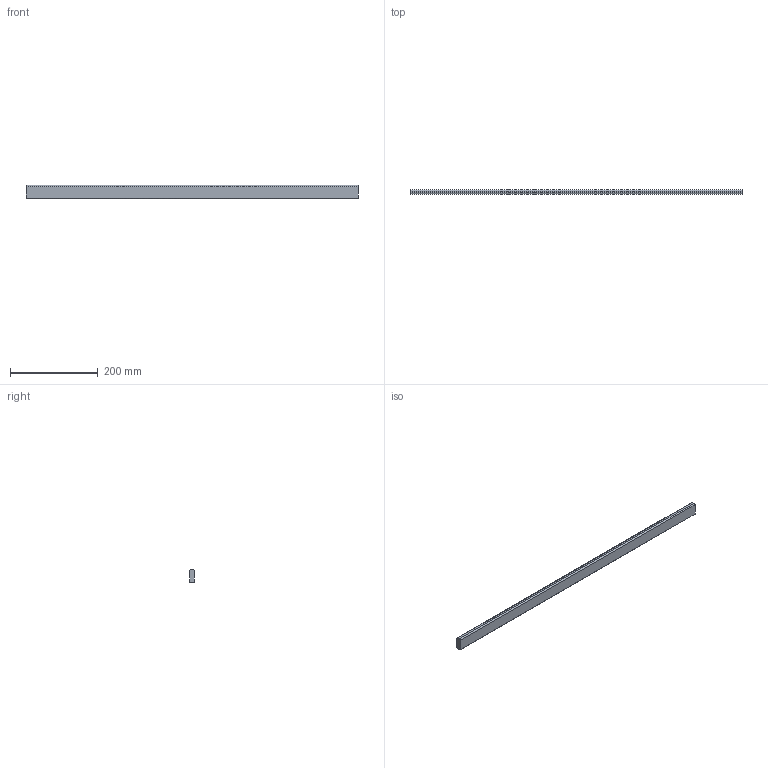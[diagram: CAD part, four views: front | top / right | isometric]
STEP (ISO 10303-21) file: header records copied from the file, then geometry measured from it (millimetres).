
FILE_DESCRIPTION (( 'STEP AP214' ), '1' );
FILE_NAME ('_Querreling_KAB-850_KS-19.step', '2010-08-26T14:58:38', ( 'grass' ), ( '' ), 'SwSTEP 2.0', 'SolidWorks 2009', '' );
FILE_SCHEMA (( 'AUTOMOTIVE_DESIGN' ));
Length unit declared in the file: millimetre
Products named in the file (1): _Querreling_KAB-850_KS-19
Bounding box: 756.5 x 10.5 x 30 mm (x, y, z)
Volume: 235050.6 mm3; surface area: 59300.4 mm2
Topology: 1 solids, 1 shells, 10 faces, 24 edges, 16 vertices
Faces by surface type: plane 6, cylinder 4
Entity records: 330 total; most frequent: DIRECTION 54, CARTESIAN_POINT 51, ORIENTED_EDGE 48, EDGE_CURVE 24, AXIS2_PLACEMENT_3D 19, LINE 16, VECTOR 16, VERTEX_POINT 16
